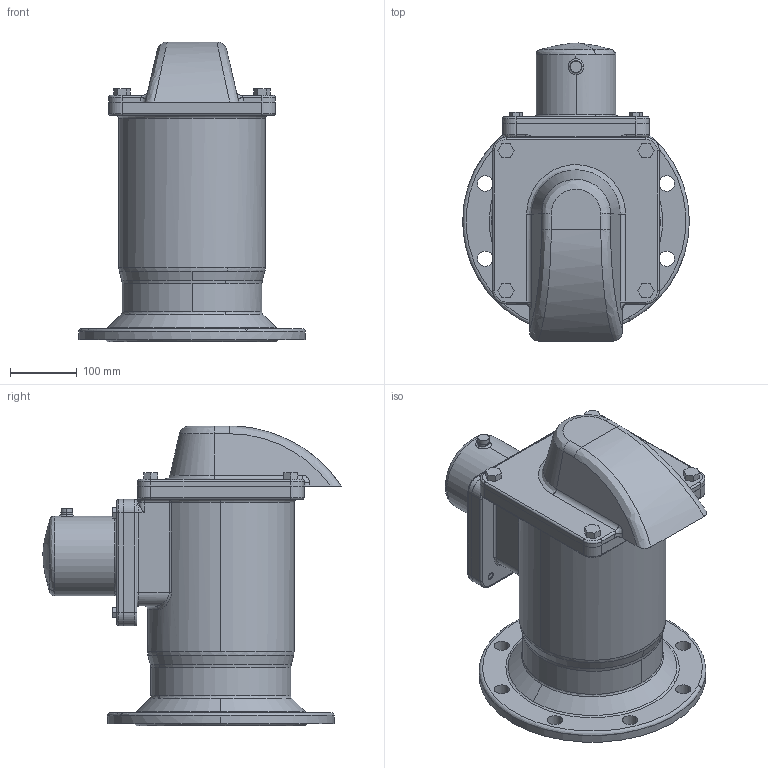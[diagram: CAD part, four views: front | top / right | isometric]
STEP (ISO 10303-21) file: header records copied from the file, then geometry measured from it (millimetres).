
FILE_DESCRIPTION (( 'STEP AP203' ), '1' );
FILE_NAME ('PVT4200-DN200.STEP', '2017-05-28T02:20:15', ( 'User' ), ( 'shendu' ), 'SwSTEP 2.0', 'SolidWorks 2015', '' );
FILE_SCHEMA (( 'CONFIG_CONTROL_DESIGN' ));
Length unit declared in the file: millimetre
Products named in the file (1): PVT4200-DN200
Bounding box: 340 x 447.3 x 450 mm (x, y, z)
Volume: 13928715.2 mm3; surface area: 1727902.3 mm2
Topology: 18 solids, 18 shells, 470 faces, 1132 edges, 699 vertices
Faces by surface type: cylinder 187, plane 140, bspline 90, cone 30, torus 23
Entity records: 29508 total; most frequent: CARTESIAN_POINT 18917, ORIENTED_EDGE 2228, DIRECTION 2077, EDGE_CURVE 1114, AXIS2_PLACEMENT_3D 795, VERTEX_POINT 699, EDGE_LOOP 551, VECTOR 487
